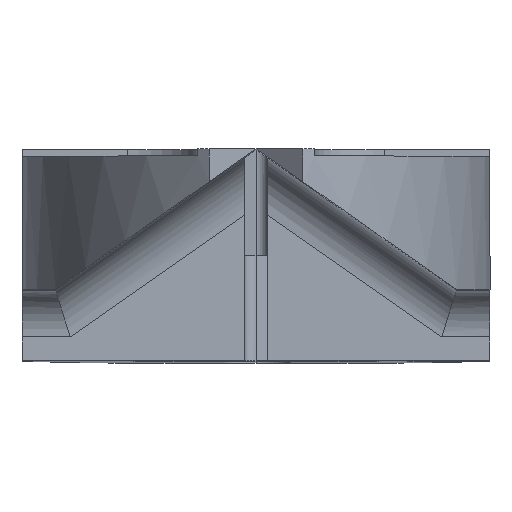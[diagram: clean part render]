
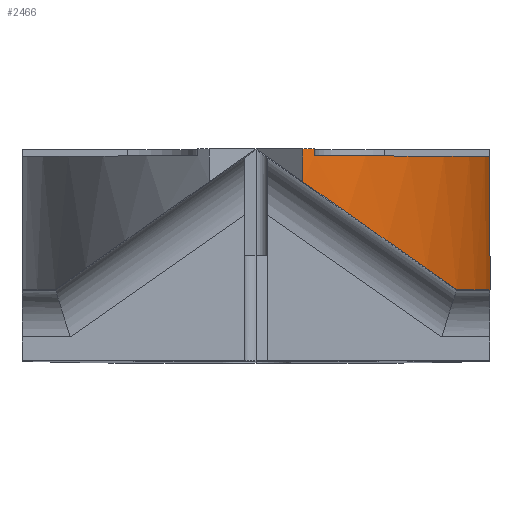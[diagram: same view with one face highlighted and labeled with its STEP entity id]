
A CAD part, top view. The second image highlights one B-rep face of the part: STEP entity #2466.
In plain terms, the highlighted cylindrical face has radius 20 mm (diameter 40 mm), a partial arc.
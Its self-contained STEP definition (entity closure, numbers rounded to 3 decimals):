
#21 = VECTOR ( 'NONE', #861, 1000. ) ;
#56 = VECTOR ( 'NONE', #1204, 1000. ) ;
#108 = EDGE_CURVE ( 'NONE', #248, #122, #2686, .T. ) ;
#113 = EDGE_CURVE ( 'NONE', #535, #1890, #3398, .T. ) ;
#122 = VERTEX_POINT ( 'NONE', #592 ) ;
#190 = LINE ( 'NONE', #873, #21 ) ;
#191 = ORIENTED_EDGE ( 'NONE', *, *, #1125, .F. ) ;
#192 = DIRECTION ( 'NONE',  ( -1., 0., 0. ) ) ;
#248 = VERTEX_POINT ( 'NONE', #1980 ) ;
#469 = CARTESIAN_POINT ( 'NONE',  ( -10., 3., 31. ) ) ;
#510 = VERTEX_POINT ( 'NONE', #2890 ) ;
#535 = VERTEX_POINT ( 'NONE', #2746 ) ;
#548 = ORIENTED_EDGE ( 'NONE', *, *, #3232, .F. ) ;
#592 = CARTESIAN_POINT ( 'NONE',  ( 10., 3., 31. ) ) ;
#716 = ORIENTED_EDGE ( 'NONE', *, *, #1467, .F. ) ;
#819 = AXIS2_PLACEMENT_3D ( 'NONE', #2905, #2894, #2750 ) ;
#845 = CARTESIAN_POINT ( 'NONE',  ( 2., 7.6, 47. ) ) ;
#861 = DIRECTION ( 'NONE',  ( 0., 1., 0. ) ) ;
#873 = CARTESIAN_POINT ( 'NONE',  ( 2., 8.296, 47. ) ) ;
#883 = ORIENTED_EDGE ( 'NONE', *, *, #113, .T. ) ;
#984 = CARTESIAN_POINT ( 'NONE',  ( 7.198, 3.96, 41.856 ) ) ;
#1045 = AXIS2_PLACEMENT_3D ( 'NONE', #469, #2558, #192 ) ;
#1104 = CIRCLE ( 'NONE', #819, 20. ) ;
#1125 = EDGE_CURVE ( 'NONE', #1781, #1890, #190, .T. ) ;
#1134 = CARTESIAN_POINT ( 'NONE',  ( 2., 9., 47. ) ) ;
#1168 = AXIS2_PLACEMENT_3D ( 'NONE', #2754, #1474, #2763 ) ;
#1180 = CARTESIAN_POINT ( 'NONE',  ( 10., 4.5, 31. ) ) ;
#1204 = DIRECTION ( 'NONE',  ( 0., -1., 0. ) ) ;
#1230 = EDGE_CURVE ( 'NONE', #248, #510, #1104, .T. ) ;
#1297 = CARTESIAN_POINT ( 'NONE',  ( -10., 3., 31. ) ) ;
#1467 = EDGE_CURVE ( 'NONE', #122, #2723, #1692, .T. ) ;
#1474 = DIRECTION ( 'NONE',  ( 0., -1., 0. ) ) ;
#1514 = CARTESIAN_POINT ( 'NONE',  ( 4.953, 5.532, 44.786 ) ) ;
#1609 = DIRECTION ( 'NONE',  ( 0., 0., -1. ) ) ;
#1636 = ORIENTED_EDGE ( 'NONE', *, *, #1230, .T. ) ;
#1692 = CIRCLE ( 'NONE', #1878, 20. ) ;
#1781 = VERTEX_POINT ( 'NONE', #845 ) ;
#1878 = AXIS2_PLACEMENT_3D ( 'NONE', #1297, #2078, #1609 ) ;
#1890 = VERTEX_POINT ( 'NONE', #1134 ) ;
#1960 = ORIENTED_EDGE ( 'NONE', *, *, #2318, .F. ) ;
#1980 = CARTESIAN_POINT ( 'NONE',  ( 10., 8.7, 31. ) ) ;
#1984 = DIRECTION ( 'NONE',  ( 0., -1., 0. ) ) ;
#2078 = DIRECTION ( 'NONE',  ( 0., -1., 0. ) ) ;
#2215 = EDGE_LOOP ( 'NONE', ( #191, #548, #716, #3293, #1636, #1960, #883 ) ) ;
#2245 = CARTESIAN_POINT ( 'NONE',  ( 2.5, 8.85, 46.612 ) ) ;
#2318 = EDGE_CURVE ( 'NONE', #535, #510, #3028, .T. ) ;
#2466 = ADVANCED_FACE ( 'NONE', ( #3145 ), #3068, .T. ) ;
#2558 = DIRECTION ( 'NONE',  ( 0., 1., 0. ) ) ;
#2686 = LINE ( 'NONE', #1180, #56 ) ;
#2723 = VERTEX_POINT ( 'NONE', #3421 ) ;
#2746 = CARTESIAN_POINT ( 'NONE',  ( 2.5, 9., 46.612 ) ) ;
#2750 = DIRECTION ( 'NONE',  ( -1., 0., 0. ) ) ;
#2754 = CARTESIAN_POINT ( 'NONE',  ( -10., 9., 31. ) ) ;
#2763 = DIRECTION ( 'NONE',  ( -1., 0., 0. ) ) ;
#2825 = CARTESIAN_POINT ( 'NONE',  ( 8.569, 3., 38.429 ) ) ;
#2890 = CARTESIAN_POINT ( 'NONE',  ( 2.5, 8.7, 46.612 ) ) ;
#2894 = DIRECTION ( 'NONE',  ( 0., -1., 0. ) ) ;
#2905 = CARTESIAN_POINT ( 'NONE',  ( -10., 8.7, 31. ) ) ;
#2928 =( BOUNDED_CURVE ( )  B_SPLINE_CURVE ( 3, ( #2825, #984, #1514, #3358 ),
 .UNSPECIFIED., .F., .F. ) 
 B_SPLINE_CURVE_WITH_KNOTS ( ( 4, 4 ),
 ( 3.522, 4.069 ),
 .UNSPECIFIED. ) 
 CURVE ( )  GEOMETRIC_REPRESENTATION_ITEM ( )  RATIONAL_B_SPLINE_CURVE ( ( 1., 0.975, 0.975, 1. ) ) 
 REPRESENTATION_ITEM ( '' )  );
#2951 = VECTOR ( 'NONE', #1984, 1000. ) ;
#3028 = LINE ( 'NONE', #2245, #2951 ) ;
#3068 = CYLINDRICAL_SURFACE ( 'NONE', #1045, 20. ) ;
#3145 = FACE_OUTER_BOUND ( 'NONE', #2215, .T. ) ;
#3232 = EDGE_CURVE ( 'NONE', #2723, #1781, #2928, .T. ) ;
#3293 = ORIENTED_EDGE ( 'NONE', *, *, #108, .F. ) ;
#3358 = CARTESIAN_POINT ( 'NONE',  ( 2., 7.6, 47. ) ) ;
#3398 = CIRCLE ( 'NONE', #1168, 20. ) ;
#3421 = CARTESIAN_POINT ( 'NONE',  ( 8.569, 3., 38.429 ) ) ;
